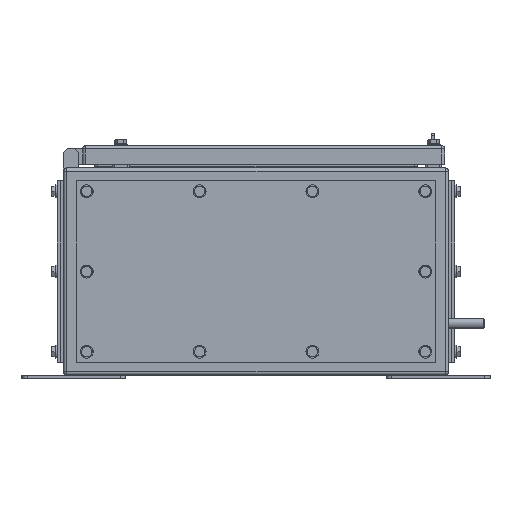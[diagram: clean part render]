
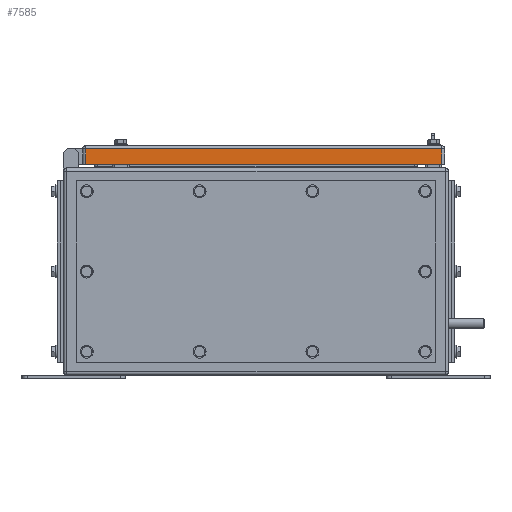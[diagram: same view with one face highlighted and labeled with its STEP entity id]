
A CAD part, front view. The second image highlights one B-rep face of the part: STEP entity #7585.
In plain terms, the highlighted planar face has unit normal (0, -1, 0) as drawn and (-1, 0, 0) by its records, which use the part's own axes.
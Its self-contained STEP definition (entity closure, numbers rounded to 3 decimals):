
#128 = LINE ( 'NONE', #26070, #6276 ) ;
#484 = DIRECTION ( 'NONE',  ( 0., -1., 0. ) ) ;
#1316 = ORIENTED_EDGE ( 'NONE', *, *, #18271, .T. ) ;
#2015 = ORIENTED_EDGE ( 'NONE', *, *, #18825, .T. ) ;
#2564 = VERTEX_POINT ( 'NONE', #27593 ) ;
#2707 = EDGE_CURVE ( 'NONE', #5491, #2564, #19468, .T. ) ;
#5491 = VERTEX_POINT ( 'NONE', #23197 ) ;
#5922 = ORIENTED_EDGE ( 'NONE', *, *, #23529, .T. ) ;
#6276 = VECTOR ( 'NONE', #6635, 1000. ) ;
#6469 = DIRECTION ( 'NONE',  ( 1., 0., 0. ) ) ;
#6635 = DIRECTION ( 'NONE',  ( 0., 0., 1. ) ) ;
#6894 = CARTESIAN_POINT ( 'NONE',  ( -252., -361., 15. ) ) ;
#7089 = CARTESIAN_POINT ( 'NONE',  ( -252., -358., 15. ) ) ;
#7375 = ORIENTED_EDGE ( 'NONE', *, *, #2707, .T. ) ;
#7585 = ADVANCED_FACE ( 'NONE', ( #10872 ), #8324, .F. ) ;
#7722 = LINE ( 'NONE', #18221, #21597 ) ;
#8324 = PLANE ( 'NONE',  #9917 ) ;
#8468 = CARTESIAN_POINT ( 'NONE',  ( -252., -361., 18. ) ) ;
#8614 = DIRECTION ( 'NONE',  ( 0., 0., -1. ) ) ;
#9039 = LINE ( 'NONE', #6894, #9072 ) ;
#9072 = VECTOR ( 'NONE', #17653, 1000. ) ;
#9917 = AXIS2_PLACEMENT_3D ( 'NONE', #8468, #6469, #8614 ) ;
#10872 = FACE_OUTER_BOUND ( 'NONE', #11790, .T. ) ;
#11790 = EDGE_LOOP ( 'NONE', ( #7375, #1316, #2015, #5922 ) ) ;
#17653 = DIRECTION ( 'NONE',  ( 0., 1., 0. ) ) ;
#17993 = VERTEX_POINT ( 'NONE', #7089 ) ;
#18221 = CARTESIAN_POINT ( 'NONE',  ( -252., -14., 18. ) ) ;
#18271 = EDGE_CURVE ( 'NONE', #2564, #17993, #128, .T. ) ;
#18825 = EDGE_CURVE ( 'NONE', #17993, #25977, #9039, .T. ) ;
#19468 = LINE ( 'NONE', #21889, #23300 ) ;
#21597 = VECTOR ( 'NONE', #24745, 1000. ) ;
#21889 = CARTESIAN_POINT ( 'NONE',  ( -252., -361., 0. ) ) ;
#23197 = CARTESIAN_POINT ( 'NONE',  ( -252., -14., 0. ) ) ;
#23300 = VECTOR ( 'NONE', #484, 1000. ) ;
#23529 = EDGE_CURVE ( 'NONE', #25977, #5491, #7722, .T. ) ;
#24745 = DIRECTION ( 'NONE',  ( 0., 0., -1. ) ) ;
#25977 = VERTEX_POINT ( 'NONE', #26598 ) ;
#26070 = CARTESIAN_POINT ( 'NONE',  ( -252., -358., 18. ) ) ;
#26598 = CARTESIAN_POINT ( 'NONE',  ( -252., -14., 15. ) ) ;
#27593 = CARTESIAN_POINT ( 'NONE',  ( -252., -358., 0. ) ) ;
